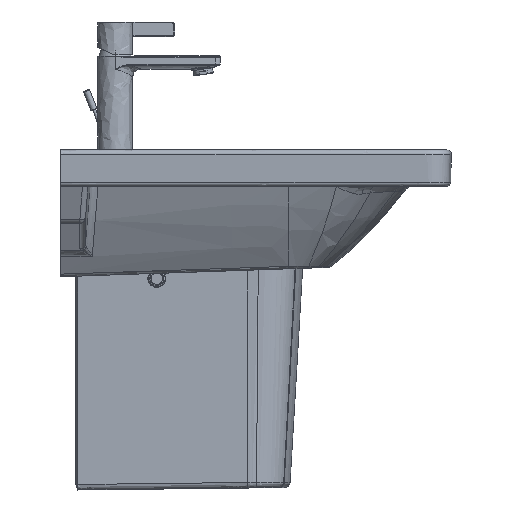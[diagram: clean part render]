
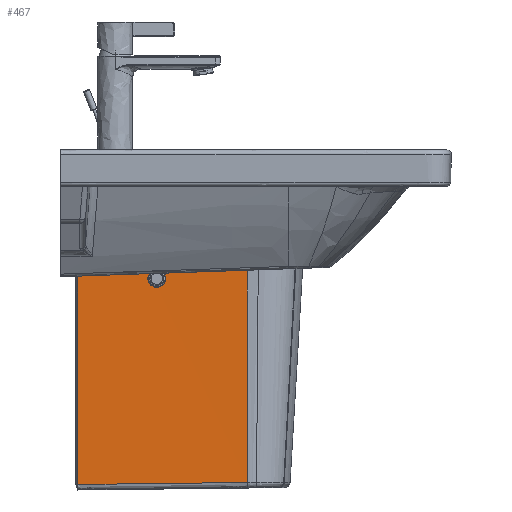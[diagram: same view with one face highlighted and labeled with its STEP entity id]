
A CAD part, left-side view. The second image highlights one B-rep face of the part: STEP entity #467.
In plain terms, the highlighted free-form (B-spline) face has degree [1, 5] with [2, 6] control points.
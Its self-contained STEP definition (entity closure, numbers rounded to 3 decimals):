
#62=FACE_BOUND('',#1870,.T.);
#467=ADVANCED_FACE('',(#1162,#62),#10179,.T.);
#1162=FACE_OUTER_BOUND('',#1869,.T.);
#1869=EDGE_LOOP('',(#3987,#3988,#3989,#3990));
#1870=EDGE_LOOP('',(#3991,#3992));
#3987=ORIENTED_EDGE('',*,*,#6432,.F.);
#3988=ORIENTED_EDGE('',*,*,#6386,.F.);
#3989=ORIENTED_EDGE('',*,*,#6431,.T.);
#3990=ORIENTED_EDGE('',*,*,#6455,.F.);
#3991=ORIENTED_EDGE('',*,*,#6488,.F.);
#3992=ORIENTED_EDGE('',*,*,#6485,.F.);
#6386=EDGE_CURVE('',#9379,#9380,#8290,.T.);
#6431=EDGE_CURVE('',#9379,#9414,#8332,.T.);
#6432=EDGE_CURVE('',#9380,#9415,#8333,.T.);
#6455=EDGE_CURVE('',#9415,#9414,#8356,.T.);
#6485=EDGE_CURVE('',#9417,#9416,#8386,.T.);
#6488=EDGE_CURVE('',#9416,#9417,#8389,.T.);
#8290=B_SPLINE_CURVE_WITH_KNOTS('',1,(#82814,#82815),.UNSPECIFIED.,.F.,
 .F.,(2,2),(0.,208.052),.UNSPECIFIED.);
#8332=B_SPLINE_CURVE_WITH_KNOTS('',5,(#83163,#83164,#83165,#83166,#83167,
#83168,#83169,#83170,#83171),.UNSPECIFIED.,.F.,.F.,(6,3,6),(82.052,
227.204,365.293),.UNSPECIFIED.);
#8333=B_SPLINE_CURVE_WITH_KNOTS('',1,(#83172,#83173),.UNSPECIFIED.,.F.,
 .F.,(2,2),(-290.099,-9.282),.UNSPECIFIED.);
#8356=B_SPLINE_CURVE_WITH_KNOTS('',4,(#83313,#83314,#83315,#83316,#83317),
 .UNSPECIFIED.,.F.,.F.,(5,5),(-104.033,104.033),
 .UNSPECIFIED.);
#8386=B_SPLINE_CURVE_WITH_KNOTS('',3,(#83618,#83619,#83620,#83621,#83622,
#83623,#83624,#83625,#83626,#83627,#83628,#83629,#83630,#83631,#83632,#83633,
#83634,#83635),.UNSPECIFIED.,.F.,.F.,(4,2,2,2,2,2,2,2,4),(-44.437,
-38.896,-33.354,-27.811,-22.264,
-16.676,-11.086,-5.539,0.),.UNSPECIFIED.);
#8389=B_SPLINE_CURVE_WITH_KNOTS('',3,(#83656,#83657,#83658,#83659,#83660,
#83661,#83662,#83663,#83664,#83665,#83666,#83667,#83668,#83669,#83670,#83671,
#83672,#83673),.UNSPECIFIED.,.F.,.F.,(4,2,2,2,2,2,2,2,4),(-44.437,
-38.892,-33.347,-27.782,-22.225,
-16.647,-11.062,-5.529,0.),.UNSPECIFIED.);
#9379=VERTEX_POINT('',#82541);
#9380=VERTEX_POINT('',#82542);
#9414=VERTEX_POINT('',#82576);
#9415=VERTEX_POINT('',#82577);
#9416=VERTEX_POINT('',#82578);
#9417=VERTEX_POINT('',#82579);
#10179=B_SPLINE_SURFACE_WITH_KNOTS('',1,5,((#80587,#80588,#80589,#80590,
#80591,#80592),(#80593,#80594,#80595,#80596,#80597,#80598)),
 .UNSPECIFIED.,.F.,.F.,.F.,(2,2),(6,6),(0.,290.099),(0.,211.052),
 .UNSPECIFIED.);
#80587=CARTESIAN_POINT('',(-1.666,-64.292,-335.476));
#80588=CARTESIAN_POINT('',(-2.166,-22.085,-335.476));
#80589=CARTESIAN_POINT('',(-2.666,20.123,-335.476));
#80590=CARTESIAN_POINT('',(-3.166,62.33,-335.476));
#80591=CARTESIAN_POINT('',(-3.666,104.538,-335.476));
#80592=CARTESIAN_POINT('',(-4.166,146.745,-335.476));
#80593=CARTESIAN_POINT('',(-9.315,-64.383,-45.476));
#80594=CARTESIAN_POINT('',(-9.785,-22.175,-45.476));
#80595=CARTESIAN_POINT('',(-10.255,20.033,-45.476));
#80596=CARTESIAN_POINT('',(-10.725,62.241,-45.476));
#80597=CARTESIAN_POINT('',(-11.195,104.449,-45.476));
#80598=CARTESIAN_POINT('',(-11.665,146.656,-45.476));
#82541=CARTESIAN_POINT('',(-11.631,143.657,-45.476));
#82542=CARTESIAN_POINT('',(-9.315,-64.383,-45.476));
#82576=CARTESIAN_POINT('',(-4.307,143.743,-328.623));
#82577=CARTESIAN_POINT('',(-1.91,-64.295,-326.197));
#82578=CARTESIAN_POINT('',(-9.881,56.745,-75.476));
#82579=CARTESIAN_POINT('',(-9.657,36.745,-75.476));
#82814=CARTESIAN_POINT('',(-11.631,143.657,-45.476));
#82815=CARTESIAN_POINT('',(-9.315,-64.383,-45.476));
#83163=CARTESIAN_POINT('',(-11.631,143.657,-45.476));
#83164=CARTESIAN_POINT('',(-10.881,143.666,-74.497));
#83165=CARTESIAN_POINT('',(-10.13,143.674,-103.517));
#83166=CARTESIAN_POINT('',(-9.379,143.683,-132.538));
#83167=CARTESIAN_POINT('',(-7.915,143.701,-189.167));
#83168=CARTESIAN_POINT('',(-6.45,143.718,-245.797));
#83169=CARTESIAN_POINT('',(-5.736,143.727,-273.405));
#83170=CARTESIAN_POINT('',(-5.022,143.735,-301.014));
#83171=CARTESIAN_POINT('',(-4.307,143.743,-328.623));
#83172=CARTESIAN_POINT('',(-9.315,-64.383,-45.476));
#83173=CARTESIAN_POINT('',(-1.91,-64.295,-326.197));
#83313=CARTESIAN_POINT('',(-1.91,-64.295,-326.197));
#83314=CARTESIAN_POINT('',(-2.509,-12.285,-326.803));
#83315=CARTESIAN_POINT('',(-3.109,39.724,-327.41));
#83316=CARTESIAN_POINT('',(-3.708,91.734,-328.016));
#83317=CARTESIAN_POINT('',(-4.307,143.743,-328.623));
#83618=CARTESIAN_POINT('',(-9.657,36.745,-75.476));
#83619=CARTESIAN_POINT('',(-9.691,36.745,-74.184));
#83620=CARTESIAN_POINT('',(-9.727,36.998,-72.9));
#83621=CARTESIAN_POINT('',(-9.8,37.965,-70.521));
#83622=CARTESIAN_POINT('',(-9.837,38.679,-69.426));
#83623=CARTESIAN_POINT('',(-9.905,40.48,-67.576));
#83624=CARTESIAN_POINT('',(-9.937,41.564,-66.823));
#83625=CARTESIAN_POINT('',(-9.991,43.965,-65.781));
#83626=CARTESIAN_POINT('',(-10.013,45.274,-65.496));
#83627=CARTESIAN_POINT('',(-10.044,47.94,-65.458));
#83628=CARTESIAN_POINT('',(-10.052,49.273,-65.71));
#83629=CARTESIAN_POINT('',(-10.054,51.735,-66.708));
#83630=CARTESIAN_POINT('',(-10.047,52.866,-67.455));
#83631=CARTESIAN_POINT('',(-10.019,54.755,-69.343));
#83632=CARTESIAN_POINT('',(-9.998,55.496,-70.461));
#83633=CARTESIAN_POINT('',(-9.946,56.492,-72.885));
#83634=CARTESIAN_POINT('',(-9.915,56.745,-74.184));
#83635=CARTESIAN_POINT('',(-9.881,56.745,-75.476));
#83656=CARTESIAN_POINT('',(-9.881,56.745,-75.476));
#83657=CARTESIAN_POINT('',(-9.848,56.745,-76.768));
#83658=CARTESIAN_POINT('',(-9.811,56.493,-78.052));
#83659=CARTESIAN_POINT('',(-9.738,55.526,-80.431));
#83660=CARTESIAN_POINT('',(-9.702,54.811,-81.527));
#83661=CARTESIAN_POINT('',(-9.633,53.007,-83.379));
#83662=CARTESIAN_POINT('',(-9.601,51.922,-84.131));
#83663=CARTESIAN_POINT('',(-9.547,49.528,-85.169));
#83664=CARTESIAN_POINT('',(-9.525,48.22,-85.456));
#83665=CARTESIAN_POINT('',(-9.494,45.55,-85.494));
#83666=CARTESIAN_POINT('',(-9.486,44.217,-85.242));
#83667=CARTESIAN_POINT('',(-9.484,41.755,-84.243));
#83668=CARTESIAN_POINT('',(-9.491,40.623,-83.496));
#83669=CARTESIAN_POINT('',(-9.519,38.734,-81.607));
#83670=CARTESIAN_POINT('',(-9.54,37.994,-80.49));
#83671=CARTESIAN_POINT('',(-9.592,36.998,-78.067));
#83672=CARTESIAN_POINT('',(-9.623,36.745,-76.768));
#83673=CARTESIAN_POINT('',(-9.657,36.745,-75.476));
